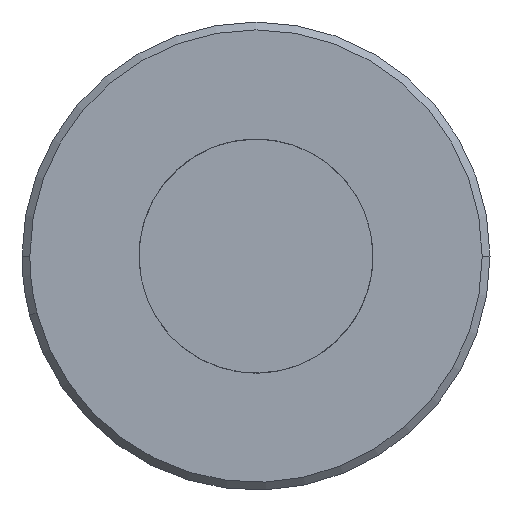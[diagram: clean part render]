
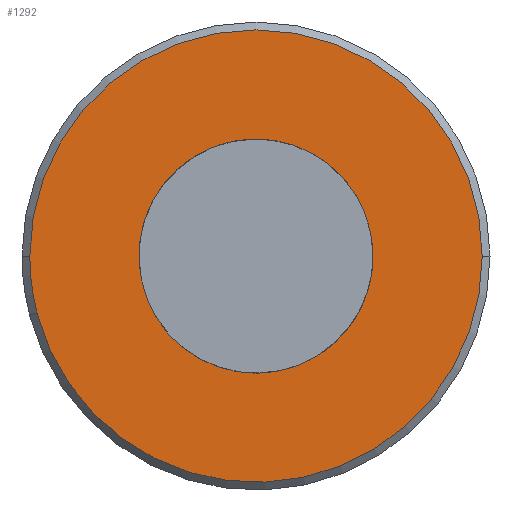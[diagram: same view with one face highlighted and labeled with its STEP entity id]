
A CAD part, front view. The second image highlights one B-rep face of the part: STEP entity #1292.
In plain terms, the highlighted planar face has unit normal (0, -1, 0).
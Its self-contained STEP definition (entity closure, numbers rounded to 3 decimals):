
#1165=CARTESIAN_POINT('Vertex',(-49.263,-478.501,509.135)) ;
#1168=CARTESIAN_POINT('Axis2P3D Location',(-34.763,-478.501,509.135)) ;
#1172=CARTESIAN_POINT('Vertex',(-20.263,-478.501,509.135)) ;
#1196=CARTESIAN_POINT('Vertex',(-48.795,-478.501,505.484)) ;
#1199=CARTESIAN_POINT('Axis2P3D Location',(-34.763,-478.501,509.135)) ;
#1216=CARTESIAN_POINT('Axis2P3D Location',(-34.763,-478.501,509.135)) ;
#1228=CARTESIAN_POINT('Axis2P3D Location',(-34.763,-478.501,509.135)) ;
#1239=CARTESIAN_POINT('Control Point',(-42.105,-478.501,507.607)) ;
#1240=CARTESIAN_POINT('Control Point',(-41.941,-478.501,506.818)) ;
#1241=CARTESIAN_POINT('Control Point',(-41.671,-478.501,506.052)) ;
#1242=CARTESIAN_POINT('Control Point',(-41.3,-478.501,505.327)) ;
#1243=CARTESIAN_POINT('Control Point',(-40.371,-478.501,503.994)) ;
#1244=CARTESIAN_POINT('Control Point',(-39.124,-478.501,502.953)) ;
#1245=CARTESIAN_POINT('Control Point',(-38.434,-478.501,502.52)) ;
#1246=CARTESIAN_POINT('Control Point',(-36.955,-478.501,501.85)) ;
#1247=CARTESIAN_POINT('Control Point',(-35.351,-478.501,501.593)) ;
#1248=CARTESIAN_POINT('Control Point',(-34.536,-478.501,501.573)) ;
#1249=CARTESIAN_POINT('Control Point',(-32.922,-478.501,501.753)) ;
#1250=CARTESIAN_POINT('Control Point',(-31.412,-478.501,502.352)) ;
#1251=CARTESIAN_POINT('Control Point',(-30.702,-478.501,502.752)) ;
#1252=CARTESIAN_POINT('Control Point',(-29.406,-478.501,503.732)) ;
#1253=CARTESIAN_POINT('Control Point',(-28.415,-478.501,505.019)) ;
#1254=CARTESIAN_POINT('Control Point',(-28.009,-478.501,505.725)) ;
#1255=CARTESIAN_POINT('Control Point',(-27.442,-478.501,507.12)) ;
#1256=CARTESIAN_POINT('Control Point',(-27.233,-478.501,508.608)) ;
#1257=CARTESIAN_POINT('Control Point',(-27.217,-478.501,509.301)) ;
#1258=CARTESIAN_POINT('Control Point',(-27.28,-478.501,509.99)) ;
#1259=CARTESIAN_POINT('Control Point',(-27.42,-478.501,510.663)) ;
#1260=CARTESIAN_POINT('Vertex',(-27.42,-478.501,510.663)) ;
#1262=CARTESIAN_POINT('Vertex',(-42.105,-478.501,507.607)) ;
#1266=CARTESIAN_POINT('Control Point',(-27.42,-478.501,510.663)) ;
#1267=CARTESIAN_POINT('Control Point',(-27.584,-478.501,511.451)) ;
#1268=CARTESIAN_POINT('Control Point',(-27.854,-478.501,512.217)) ;
#1269=CARTESIAN_POINT('Control Point',(-28.225,-478.501,512.943)) ;
#1270=CARTESIAN_POINT('Control Point',(-29.154,-478.501,514.275)) ;
#1271=CARTESIAN_POINT('Control Point',(-30.401,-478.501,515.316)) ;
#1272=CARTESIAN_POINT('Control Point',(-31.091,-478.501,515.75)) ;
#1273=CARTESIAN_POINT('Control Point',(-32.571,-478.501,516.42)) ;
#1274=CARTESIAN_POINT('Control Point',(-34.174,-478.501,516.677)) ;
#1275=CARTESIAN_POINT('Control Point',(-34.989,-478.501,516.697)) ;
#1276=CARTESIAN_POINT('Control Point',(-36.603,-478.501,516.517)) ;
#1277=CARTESIAN_POINT('Control Point',(-38.113,-478.501,515.918)) ;
#1278=CARTESIAN_POINT('Control Point',(-38.823,-478.501,515.518)) ;
#1279=CARTESIAN_POINT('Control Point',(-40.119,-478.501,514.538)) ;
#1280=CARTESIAN_POINT('Control Point',(-41.11,-478.501,513.251)) ;
#1281=CARTESIAN_POINT('Control Point',(-41.516,-478.501,512.544)) ;
#1282=CARTESIAN_POINT('Control Point',(-42.084,-478.501,511.15)) ;
#1283=CARTESIAN_POINT('Control Point',(-42.292,-478.501,509.662)) ;
#1284=CARTESIAN_POINT('Control Point',(-42.308,-478.501,508.969)) ;
#1285=CARTESIAN_POINT('Control Point',(-42.245,-478.501,508.28)) ;
#1286=CARTESIAN_POINT('Control Point',(-42.105,-478.501,507.607)) ;
#1169=DIRECTION('Axis2P3D Direction',(0.,1.,0.)) ;
#1200=DIRECTION('Axis2P3D Direction',(0.,1.,0.)) ;
#1217=DIRECTION('Axis2P3D Direction',(0.,1.,0.)) ;
#1229=DIRECTION('Axis2P3D Direction',(0.,1.,0.)) ;
#1230=DIRECTION('Axis2P3D XDirection',(-1.,-0.,-0.)) ;
#1170=AXIS2_PLACEMENT_3D('Circle Axis2P3D',#1168,#1169,$) ;
#1201=AXIS2_PLACEMENT_3D('Circle Axis2P3D',#1199,#1200,$) ;
#1218=AXIS2_PLACEMENT_3D('Circle Axis2P3D',#1216,#1217,$) ;
#1231=AXIS2_PLACEMENT_3D('Plane Axis2P3D',#1228,#1229,#1230) ;
#1234=ORIENTED_EDGE('',*,*,#1174,.F.) ;
#1235=ORIENTED_EDGE('',*,*,#1220,.F.) ;
#1236=ORIENTED_EDGE('',*,*,#1203,.F.) ;
#1289=ORIENTED_EDGE('',*,*,#1264,.T.) ;
#1290=ORIENTED_EDGE('',*,*,#1287,.T.) ;
#1291=FACE_BOUND('',#1288,.T.) ;
#1292=ADVANCED_FACE('\X2\96F64EF651E04F554F53\X0\',(#1237,#1291),#1232,.F.) ;
#1238=B_SPLINE_CURVE_WITH_KNOTS('',5,(#1239,#1240,#1241,#1242,#1243,#1244,#1245,#1246,#1247,#1248,#1249,#1250,#1251,#1252,#1253,#1254,#1255,#1256,#1257,#1258,#1259),.UNSPECIFIED.,.F.,.U.,(6,3,3,3,3,3,6),(0.,5.692,11.384,17.076,22.768,28.46,33.321),.UNSPECIFIED.) ;
#1265=B_SPLINE_CURVE_WITH_KNOTS('',5,(#1266,#1267,#1268,#1269,#1270,#1271,#1272,#1273,#1274,#1275,#1276,#1277,#1278,#1279,#1280,#1281,#1282,#1283,#1284,#1285,#1286),.UNSPECIFIED.,.F.,.U.,(6,3,3,3,3,3,6),(0.,5.692,11.384,17.076,22.768,28.46,33.321),.UNSPECIFIED.) ;
#1171=CIRCLE('generated circle',#1170,14.5) ;
#1202=CIRCLE('generated circle',#1201,14.5) ;
#1219=CIRCLE('generated circle',#1218,14.5) ;
#1174=EDGE_CURVE('',#1166,#1173,#1171,.T.) ;
#1203=EDGE_CURVE('',#1173,#1197,#1202,.T.) ;
#1220=EDGE_CURVE('',#1197,#1166,#1219,.T.) ;
#1264=EDGE_CURVE('',#1261,#1263,#1238,.F.) ;
#1287=EDGE_CURVE('',#1263,#1261,#1265,.F.) ;
#1233=EDGE_LOOP('',(#1234,#1235,#1236)) ;
#1288=EDGE_LOOP('',(#1289,#1290)) ;
#1237=FACE_OUTER_BOUND('',#1233,.T.) ;
#1232=PLANE('Plane',#1231) ;
#1166=VERTEX_POINT('',#1165) ;
#1173=VERTEX_POINT('',#1172) ;
#1197=VERTEX_POINT('',#1196) ;
#1261=VERTEX_POINT('',#1260) ;
#1263=VERTEX_POINT('',#1262) ;
